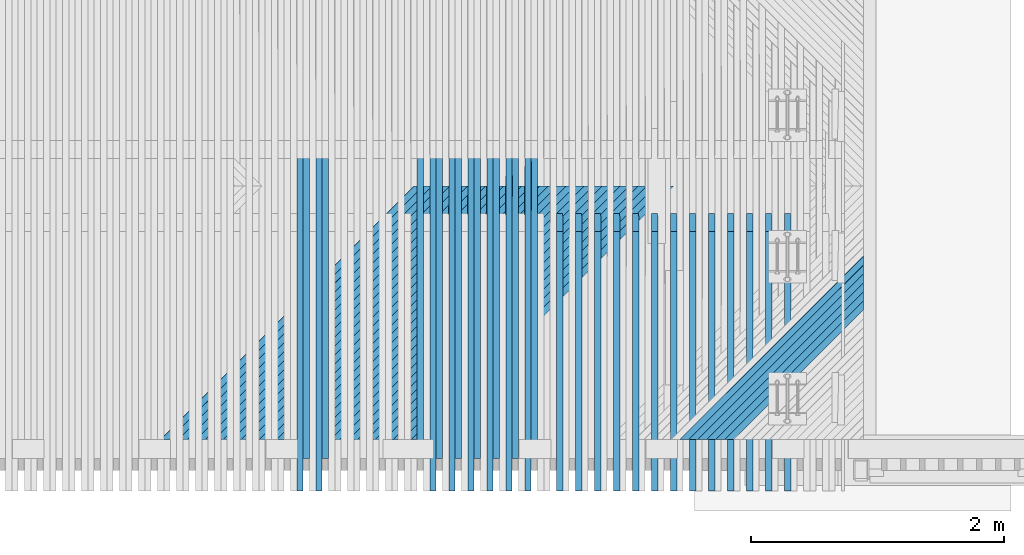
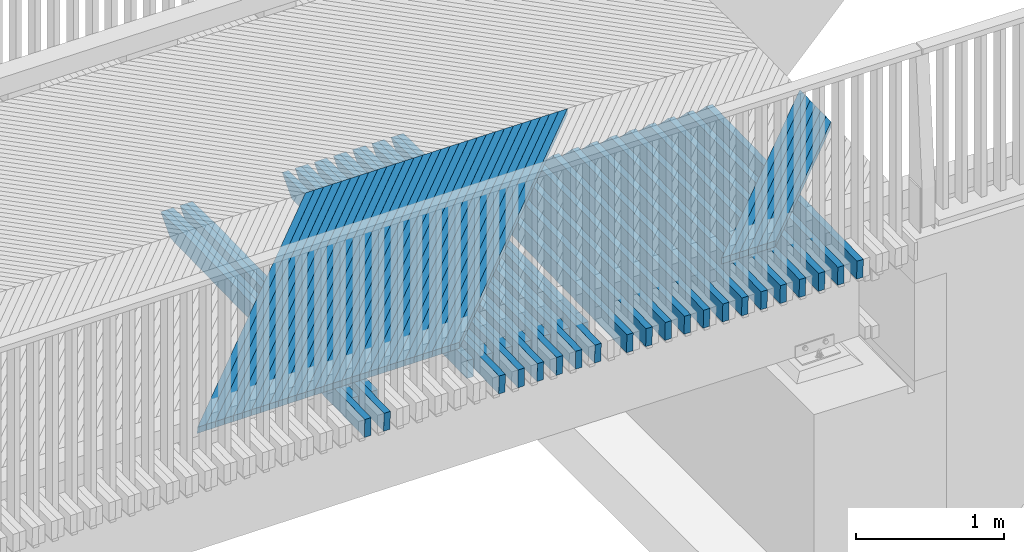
# One storey, part 37 of 47: 65 beams.
"""IFC2X3 building model written with IfcOpenShell, lengths in millimetres."""

from ifc_helpers import new_model, si_unit, frame, origin_with_axes, place, context, subcontext, project, spatial, faceted_brep, material, type_object, element, save


model = new_model("IFC2X3")

# Units and contexts
model_context = context("Model", 3, precision=1e-05, world=origin_with_axes())
body_context = subcontext(model_context, "Body", "Model", "MODEL_VIEW")
ifc_project = project(units=[si_unit("LENGTHUNIT", "METRE", prefix="MILLI"), si_unit("AREAUNIT", "SQUARE_METRE"), si_unit("VOLUMEUNIT", "CUBIC_METRE"), si_unit("MASSUNIT", "GRAM", prefix="KILO"), si_unit("TIMEUNIT", "SECOND"), si_unit("PLANEANGLEUNIT", "RADIAN"), si_unit("SOLIDANGLEUNIT", "STERADIAN"), si_unit("THERMODYNAMICTEMPERATUREUNIT", "DEGREE_CELSIUS"), si_unit("LUMINOUSINTENSITYUNIT", "LUMEN")], contexts=[model_context])

# Site, building, storey
site_placement = place(None, origin_with_axes())
site = spatial("IfcSite", under=ifc_project, at=site_placement, Name="Undefined", CompositionType="ELEMENT")
building_placement = place(site_placement, origin_with_axes())
building = spatial("IfcBuilding", under=site, at=building_placement, Name="Undefined", CompositionType="ELEMENT")
storey_placement = place(building_placement, origin_with_axes())
storey = spatial("IfcBuildingStorey", under=building, at=storey_placement, Name="Undefined", CompositionType="ELEMENT", Elevation=0.0)

# Beams
ifc_material = material(Name="TIMBER/Timber_Undefined")
beam_type_1 = type_object("IfcBeamType", Name="150*50", PredefinedType="NOTDEFINED")
for number, where, z_axis, x_axis, name in (
    (1, (16001.1404084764, 59958.5561921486, 3034.81313102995), (0.013208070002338, -0.0199960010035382, 0.999712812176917), (0.000263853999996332, 0.999800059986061, 0.0199942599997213), "BEAM"),
    (2, (15851.1246502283, 59958.5561921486, 3036.78858496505), (0.0129589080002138, -0.0199960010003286, 0.999716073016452), (0.000258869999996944, 0.999800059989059, 0.0199943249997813), "BEAM"),
    (3, (15701.1084042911, 59958.5561921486, 3038.72664995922), (0.012709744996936, -0.0199960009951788, 0.999719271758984), (0.000253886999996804, 0.999800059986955, 0.0199943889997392), "BEAM"),
    (4, (15551.0916799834, 59958.5561921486, 3040.62732589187), (0.0124605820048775, -0.0199960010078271, 0.999722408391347), (0.000248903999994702, 0.999800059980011, 0.0199944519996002), "BEAM"),
    (5, (15401.0744866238, 59958.5561921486, 3042.49061264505), (0.0122114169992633, -0.0199960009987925, 0.999725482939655), (0.000243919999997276, 0.999800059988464, 0.0199945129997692), "BEAM"),
    (6, (15251.056833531, 59958.5561921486, 3044.31651010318), (0.0119622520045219, -0.0199960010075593, 0.999728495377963), (0.000238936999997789, 0.999800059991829, 0.0199945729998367), "BEAM"),
    (7, (15101.0387300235, 59958.5561921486, 3046.10501815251), (0.011713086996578, -0.0199960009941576, 0.999731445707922), (0.000233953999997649, 0.999800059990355, 0.0199946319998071), "BEAM"),
    (8, (14951.0201854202, 59958.5561921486, 3047.85613668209), (0.0114639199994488, -0.0199960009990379, 0.999734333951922), (0.000228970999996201, 0.999800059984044, 0.0199946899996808), "BEAM"),
    (9, (14801.0012090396, 59958.5561921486, 3049.56986558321), (0.0112147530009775, -0.0199960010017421, 0.999737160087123), (0.000223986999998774, 0.999800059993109, 0.0199947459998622), "BEAM"),
    (10, (14650.9818102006, 59958.5561921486, 3051.24620474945), (0.0109655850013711, -0.0199960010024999, 0.999739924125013), (0.000219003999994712, 0.999800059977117, 0.0199948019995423), "BEAM"),
    (11, (14500.961998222, 59958.5561921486, 3052.8851540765), (0.0107164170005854, -0.0199960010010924, 0.999742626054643), (0.00021401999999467, 0.999800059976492, 0.0199948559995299), "BEAM"),
    (12, (14350.9417824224, 59958.5561921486, 3054.48671346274), (0.0104672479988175, -0.019996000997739, 0.999745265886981), (0.000209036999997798, 0.999800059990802, 0.019994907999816), "BEAM"),
    (13, (14200.9211721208, 59958.5561921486, 3056.05088280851), (0.0102180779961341, -0.0199960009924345, 0.999747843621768), (0.000204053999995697, 0.999800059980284, 0.0199949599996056), "BEAM"),
):
    element("IfcBeam", number, at=place(storey_placement, frame(where, z_axis=z_axis, x_axis=x_axis)), inside=storey, type_object=beam_type_1, material=ifc_material, Name=name, ObjectType="150*50", context=body_context, shape_type="Brep", body=[
        faceted_brep([(6.18456397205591e-09, -24.9999999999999, -75.0000000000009), (-6.1918399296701e-09, -24.9999999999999, 74.9999999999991), (-6.19911588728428e-09, 25.0, 75.0), (6.18456397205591e-09, 24.9999999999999, -75.0), (2047.96936034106, -25.0000000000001, 75.0), (2047.96935975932, 25.0, 75.0), (2186.42645864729, 25.0, -75.0), (2186.42645915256, -25.0000000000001, -75.0)], [[[0, 1, 2, 3]], [[2, 1, 4, 5]], [[3, 2, 5, 6]], [[0, 3, 6, 7]], [[1, 0, 7, 4]], [[4, 7, 6, 5]]]),
    ])
beam_1_placement = place(storey_placement, frame((14000.8684454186, 60216.5046076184, 3063.23641935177), z_axis=(0.00996890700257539, -0.0199960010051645, 0.999750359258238), x_axis=(0.000199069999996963, 0.999800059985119, 0.0199950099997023)))
element("IfcBeam", 14, at=beam_1_placement, inside=storey, type_object=beam_type_1, material=ifc_material, Name="BEAM", ObjectType="150*50", context=body_context, shape_type="Brep", body=[
    faceted_brep([(6.18456397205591e-09, -24.9999999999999, -75.0000000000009), (-6.1918399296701e-09, -24.9999999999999, 74.9999999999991), (-6.19911588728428e-09, 25.0, 75.0), (6.18456397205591e-09, 24.9999999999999, -75.0), (2375.00494220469, 24.9999999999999, -75.0000000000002), (2375.00494218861, -25.0, -75.0), (2510.59248711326, -25.0, 60.5875455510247), (2150.42518973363, -25.0, 75.0000000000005), (2150.42518840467, 25.0, 74.9999999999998), (2510.59248707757, 25.0, 60.5875454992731)], [[[0, 1, 2, 3]], [[0, 3, 4, 5]], [[1, 0, 5, 6, 7]], [[2, 1, 7, 8]], [[4, 3, 2, 8, 9]], [[5, 4, 9, 6]], [[8, 7, 6, 9]]]),
])
beam_2_placement = place(storey_placement, frame((13950.9149364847, 59958.5561921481, 3058.57312632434), z_axis=(0.0098865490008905, -0.0199960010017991, 0.999751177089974), x_axis=(0.000197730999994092, 0.99980005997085, 0.019995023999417)))
element("IfcBeam", 15, at=beam_2_placement, inside=storey, type_object=beam_type_1, material=ifc_material, Name="BEAM", ObjectType="150*50", context=body_context, shape_type="Brep", body=[
    faceted_brep([(6.18456397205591e-09, -24.9999999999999, -75.0000000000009), (-6.1918399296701e-09, -24.9999999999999, 74.9999999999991), (-6.19911588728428e-09, 25.0, 75.0), (6.18456397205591e-09, 24.9999999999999, -75.0), (2633.00494983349, 25.0000000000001, -75.0000000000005), (2633.00495050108, -24.9999999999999, -75.0000000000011), (2768.59248707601, -25.0, 60.5875366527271), (2408.42499905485, -25.0, 74.9999999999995), (2408.42501428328, 25.0000000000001, 74.9999999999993), (2768.5924870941, 25.0, 60.5875375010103)], [[[0, 1, 2, 3]], [[0, 3, 4, 5]], [[1, 0, 5, 6, 7]], [[2, 1, 7, 8]], [[4, 3, 2, 8, 9]], [[5, 4, 9, 6]], [[8, 7, 6, 9]]]),
])
beam_3_placement = place(storey_placement, frame((13850.8456652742, 60216.5046076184, 3064.71333859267), z_axis=(0.00971973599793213, -0.0199960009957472, 0.999752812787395), x_axis=(0.000194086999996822, 0.999800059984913, 0.0199950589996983)))
element("IfcBeam", 16, at=beam_3_placement, inside=storey, type_object=beam_type_1, material=ifc_material, Name="BEAM", ObjectType="150*50", context=body_context, shape_type="Brep", body=[
    faceted_brep([(6.18456397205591e-09, -24.9999999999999, -75.0000000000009), (-6.1918399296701e-09, -24.9999999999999, 74.9999999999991), (-6.19911588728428e-09, 25.0, 75.0), (6.18456397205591e-09, 24.9999999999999, -75.0), (2375.00494220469, 24.9999999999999, -75.0000000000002), (2375.00494218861, -25.0, -75.0), (2510.59248711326, -25.0, 60.5875455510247), (2150.42518973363, -25.0, 75.0000000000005), (2150.42518840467, 25.0, 74.9999999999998), (2510.59248707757, 25.0, 60.5875454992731)], [[[0, 1, 2, 3]], [[0, 3, 4, 5]], [[1, 0, 5, 6, 7]], [[2, 1, 7, 8]], [[4, 3, 2, 8, 9]], [[5, 4, 9, 6]], [[8, 7, 6, 9]]]),
])
beam_4_placement = place(storey_placement, frame((13800.8933201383, 59958.5561921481, 3060.03759564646), z_axis=(0.00963737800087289, -0.0199960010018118, 0.999753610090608), x_axis=(0.000192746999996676, 0.999800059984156, 0.0199950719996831)))
element("IfcBeam", 17, at=beam_4_placement, inside=storey, type_object=beam_type_1, material=ifc_material, Name="BEAM", ObjectType="150*50", context=body_context, shape_type="Brep", body=[
    faceted_brep([(6.18456397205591e-09, -24.9999999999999, -75.0000000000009), (-6.1918399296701e-09, -24.9999999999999, 74.9999999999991), (-6.19911588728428e-09, 25.0, 75.0), (6.18456397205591e-09, 24.9999999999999, -75.0), (2633.00494983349, 25.0000000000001, -75.0000000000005), (2633.00495050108, -24.9999999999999, -75.0000000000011), (2768.59248707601, -25.0, 60.5875366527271), (2408.42499905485, -25.0, 74.9999999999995), (2408.42501428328, 25.0000000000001, 74.9999999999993), (2768.5924870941, 25.0, 60.5875375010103)], [[[0, 1, 2, 3]], [[0, 3, 4, 5]], [[1, 0, 5, 6, 7]], [[2, 1, 7, 8]], [[4, 3, 2, 8, 9]], [[5, 4, 9, 6]], [[8, 7, 6, 9]]]),
])
beam_5_placement = place(storey_placement, frame((13700.8225216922, 60216.5046076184, 3066.15286715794), z_axis=(0.00947056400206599, -0.0199960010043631, 0.999755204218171), x_axis=(0.000189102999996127, 0.999800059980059, 0.0199951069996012)))
element("IfcBeam", 18, at=beam_5_placement, inside=storey, type_object=beam_type_1, material=ifc_material, Name="BEAM", ObjectType="150*50", context=body_context, shape_type="Brep", body=[
    faceted_brep([(6.18456397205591e-09, -24.9999999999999, -75.0000000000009), (-6.1918399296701e-09, -24.9999999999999, 74.9999999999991), (-6.19911588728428e-09, 25.0, 75.0), (6.18456397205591e-09, 24.9999999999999, -75.0), (2375.00494220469, 24.9999999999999, -75.0000000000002), (2375.00494218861, -25.0, -75.0), (2510.59248711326, -25.0, 60.5875455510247), (2150.42518973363, -25.0, 75.0000000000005), (2150.42518840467, 25.0, 74.9999999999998), (2510.59248707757, 25.0, 60.5875454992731)], [[[0, 1, 2, 3]], [[0, 3, 4, 5]], [[1, 0, 5, 6, 7]], [[2, 1, 7, 8]], [[4, 3, 2, 8, 9]], [[5, 4, 9, 6]], [[8, 7, 6, 9]]]),
])
beam_6_placement = place(storey_placement, frame((13650.8713434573, 59958.5561921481, 3061.4646745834), z_axis=(0.00938820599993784, -0.0199960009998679, 0.99975598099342), x_axis=(0.000187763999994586, 0.999800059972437, 0.0199951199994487)))
element("IfcBeam", 19, at=beam_6_placement, inside=storey, type_object=beam_type_1, material=ifc_material, Name="BEAM", ObjectType="150*50", context=body_context, shape_type="Brep", body=[
    faceted_brep([(6.18456397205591e-09, -24.9999999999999, -75.0000000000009), (-6.1918399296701e-09, -24.9999999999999, 74.9999999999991), (-6.19911588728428e-09, 25.0, 75.0), (6.18456397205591e-09, 24.9999999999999, -75.0), (2633.00494983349, 25.0000000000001, -75.0000000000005), (2633.00495050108, -24.9999999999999, -75.0000000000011), (2768.59248707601, -25.0, 60.5875366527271), (2408.42499905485, -25.0, 74.9999999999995), (2408.42501428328, 25.0000000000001, 74.9999999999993), (2768.5924870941, 25.0, 60.5875375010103)], [[[0, 1, 2, 3]], [[0, 3, 4, 5]], [[1, 0, 5, 6, 7]], [[2, 1, 7, 8]], [[4, 3, 2, 8, 9]], [[5, 4, 9, 6]], [[8, 7, 6, 9]]]),
])
beam_7_placement = place(storey_placement, frame((13550.7990239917, 60216.5046076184, 3067.5550049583), z_axis=(0.00922139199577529, -0.0199960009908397, 0.999757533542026), x_axis=(0.000184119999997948, 0.999800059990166, 0.0199951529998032)))
element("IfcBeam", 20, at=beam_7_placement, inside=storey, type_object=beam_type_1, material=ifc_material, Name="BEAM", ObjectType="150*50", context=body_context, shape_type="Brep", body=[
    faceted_brep([(6.18456397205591e-09, -24.9999999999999, -75.0000000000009), (-6.1918399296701e-09, -24.9999999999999, 74.9999999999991), (-6.19911588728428e-09, 25.0, 75.0), (6.18456397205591e-09, 24.9999999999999, -75.0), (2375.00494220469, 24.9999999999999, -75.0000000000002), (2375.00494218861, -25.0, -75.0), (2510.59248711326, -25.0, 60.5875455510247), (2150.42518973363, -25.0, 75.0000000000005), (2150.42518840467, 25.0, 74.9999999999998), (2510.59248707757, 25.0, 60.5875454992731)], [[[0, 1, 2, 3]], [[0, 3, 4, 5]], [[1, 0, 5, 6, 7]], [[2, 1, 7, 8]], [[4, 3, 2, 8, 9]], [[5, 4, 9, 6]], [[8, 7, 6, 9]]]),
])
beam_8_placement = place(storey_placement, frame((13500.8490157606, 59958.5561921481, 3062.85436304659), z_axis=(0.00913903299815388, -0.0199960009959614, 0.999758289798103), x_axis=(0.000182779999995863, 0.999800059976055, 0.0199951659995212)))
element("IfcBeam", 21, at=beam_8_placement, inside=storey, type_object=beam_type_1, material=ifc_material, Name="BEAM", ObjectType="150*50", context=body_context, shape_type="Brep", body=[
    faceted_brep([(6.18456397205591e-09, -24.9999999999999, -75.0000000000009), (-6.1918399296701e-09, -24.9999999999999, 74.9999999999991), (-6.19911588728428e-09, 25.0, 75.0), (6.18456397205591e-09, 24.9999999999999, -75.0), (2633.00494983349, 25.0000000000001, -75.0000000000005), (2633.00495050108, -24.9999999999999, -75.0000000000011), (2768.59248707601, -25.0, 60.5875366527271), (2408.42499905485, -25.0, 74.9999999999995), (2408.42501428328, 25.0000000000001, 74.9999999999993), (2768.5924870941, 25.0, 60.5875375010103)], [[[0, 1, 2, 3]], [[0, 3, 4, 5]], [[1, 0, 5, 6, 7]], [[2, 1, 7, 8]], [[4, 3, 2, 8, 9]], [[5, 4, 9, 6]], [[8, 7, 6, 9]]]),
])
beam_9_placement = place(storey_placement, frame((13400.7751814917, 60216.5046076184, 3068.91975190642), z_axis=(0.00897221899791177, -0.0199960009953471, 0.999759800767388), x_axis=(0.000179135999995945, 0.999800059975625, 0.0199951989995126)))
element("IfcBeam", 22, at=beam_9_placement, inside=storey, type_object=beam_type_1, material=ifc_material, Name="BEAM", ObjectType="150*50", context=body_context, shape_type="Brep", body=[
    faceted_brep([(6.18456397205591e-09, -24.9999999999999, -75.0000000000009), (-6.1918399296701e-09, -24.9999999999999, 74.9999999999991), (-6.19911588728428e-09, 25.0, 75.0), (6.18456397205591e-09, 24.9999999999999, -75.0), (2375.00494220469, 24.9999999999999, -75.0000000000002), (2375.00494218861, -25.0, -75.0), (2510.59248711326, -25.0, 60.5875455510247), (2150.42518973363, -25.0, 75.0000000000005), (2150.42518840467, 25.0, 74.9999999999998), (2510.59248707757, 25.0, 60.5875454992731)], [[[0, 1, 2, 3]], [[0, 3, 4, 5]], [[1, 0, 5, 6, 7]], [[2, 1, 7, 8]], [[4, 3, 2, 8, 9]], [[5, 4, 9, 6]], [[8, 7, 6, 9]]]),
])
beam_10_placement = place(storey_placement, frame((13350.8263463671, 59958.5561921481, 3064.20666094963), z_axis=(0.0088898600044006, -0.0199960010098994, 0.999760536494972), x_axis=(0.000177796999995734, 0.999800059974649, 0.019995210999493)))
element("IfcBeam", 23, at=beam_10_placement, inside=storey, type_object=beam_type_1, material=ifc_material, Name="BEAM", ObjectType="150*50", context=body_context, shape_type="Brep", body=[
    faceted_brep([(6.18456397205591e-09, -24.9999999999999, -75.0000000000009), (-6.1918399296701e-09, -24.9999999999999, 74.9999999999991), (-6.19911588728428e-09, 25.0, 75.0), (6.18456397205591e-09, 24.9999999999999, -75.0), (2633.00494983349, 25.0000000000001, -75.0000000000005), (2633.00495050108, -24.9999999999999, -75.0000000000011), (2768.59248707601, -25.0, 60.5875366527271), (2408.42499905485, -25.0, 74.9999999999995), (2408.42501428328, 25.0000000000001, 74.9999999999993), (2768.5924870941, 25.0, 60.5875375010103)], [[[0, 1, 2, 3]], [[0, 3, 4, 5]], [[1, 0, 5, 6, 7]], [[2, 1, 7, 8]], [[4, 3, 2, 8, 9]], [[5, 4, 9, 6]], [[8, 7, 6, 9]]]),
])
beam_11_placement = place(storey_placement, frame((13250.7510035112, 60216.5046076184, 3070.24710791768), z_axis=(0.00872304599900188, -0.0199960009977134, 0.9997620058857), x_axis=(0.000174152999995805, 0.999800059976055, 0.0199952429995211)))
element("IfcBeam", 24, at=beam_11_placement, inside=storey, type_object=beam_type_1, material=ifc_material, Name="BEAM", ObjectType="150*50", context=body_context, shape_type="Brep", body=[
    faceted_brep([(6.18456397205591e-09, -24.9999999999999, -75.0000000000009), (-6.1918399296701e-09, -24.9999999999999, 74.9999999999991), (-6.19911588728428e-09, 25.0, 75.0), (6.18456397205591e-09, 24.9999999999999, -75.0), (2375.00494220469, 24.9999999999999, -75.0000000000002), (2375.00494218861, -25.0, -75.0), (2510.59248711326, -25.0, 60.5875455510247), (2150.42518973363, -25.0, 75.0000000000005), (2150.42518840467, 25.0, 74.9999999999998), (2510.59248707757, 25.0, 60.5875454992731)], [[[0, 1, 2, 3]], [[0, 3, 4, 5]], [[1, 0, 5, 6, 7]], [[2, 1, 7, 8]], [[4, 3, 2, 8, 9]], [[5, 4, 9, 6]], [[8, 7, 6, 9]]]),
])
beam_12_placement = place(storey_placement, frame((13200.8033445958, 59958.5561921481, 3065.52156820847), z_axis=(0.0086406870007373, -0.0199960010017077, 0.999762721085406), x_axis=(0.000172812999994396, 0.99980005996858, 0.0199952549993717)))
element("IfcBeam", 25, at=beam_12_placement, inside=storey, type_object=beam_type_1, material=ifc_material, Name="BEAM", ObjectType="150*50", context=body_context, shape_type="Brep", body=[
    faceted_brep([(6.18456397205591e-09, -24.9999999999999, -75.0000000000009), (-6.1918399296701e-09, -24.9999999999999, 74.9999999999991), (-6.19911588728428e-09, 25.0, 75.0), (6.18456397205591e-09, 24.9999999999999, -75.0), (2633.00494983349, 25.0000000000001, -75.0000000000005), (2633.00495050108, -24.9999999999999, -75.0000000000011), (2768.59248707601, -25.0, 60.5875366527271), (2408.42499905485, -25.0, 74.9999999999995), (2408.4249624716, 24.9999999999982, 74.9999999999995), (2768.5924870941, 25.0, 60.5875375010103)], [[[0, 1, 2, 3]], [[0, 3, 4, 5]], [[1, 0, 5, 6, 7]], [[2, 1, 7, 8]], [[4, 3, 2, 8, 9]], [[5, 4, 9, 6]], [[8, 7, 6, 9]]]),
])
for number, where, z_axis, x_axis, name in (
    (26, (13100.7264993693, 60216.5046076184, 3071.53707290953), (0.00847387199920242, -0.0199960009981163, 0.999764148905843), (0.000169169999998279, 0.99980005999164, 0.0199952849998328), "BEAM"),
    (27, (12350.5994124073, 60216.5046076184, 3077.42602985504), (0.00722799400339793, -0.0199960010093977, 0.999773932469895), (0.000144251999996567, 0.999800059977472, 0.0199954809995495), "BEAM"),
):
    element("IfcBeam", number, at=place(storey_placement, frame(where, z_axis=z_axis, x_axis=x_axis)), inside=storey, type_object=beam_type_1, material=ifc_material, Name=name, ObjectType="150*50", context=body_context, shape_type="Brep", body=[
        faceted_brep([(6.18456397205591e-09, -24.9999999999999, -75.0000000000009), (-6.1918399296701e-09, -24.9999999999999, 74.9999999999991), (-6.19911588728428e-09, 25.0, 75.0), (6.18456397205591e-09, 24.9999999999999, -75.0), (2375.00494220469, 24.9999999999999, -75.0000000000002), (2375.00494218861, -25.0, -75.0), (2510.59248711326, -25.0, 60.5875455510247), (2150.42518973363, -25.0, 75.0000000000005), (2150.42518840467, 25.0, 74.9999999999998), (2510.59248707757, 25.0, 60.5875454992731)], [[[0, 1, 2, 3]], [[0, 3, 4, 5]], [[1, 0, 5, 6, 7]], [[2, 1, 7, 8]], [[4, 3, 2, 8, 9]], [[5, 4, 9, 6]], [[8, 7, 6, 9]]]),
    ])
beam_13_placement = place(storey_placement, frame((12300.6588758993, 59958.5561921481, 3072.625803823), z_axis=(0.00714563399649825, -0.0199960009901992, 0.999774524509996), x_axis=(0.000142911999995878, 0.999800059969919, 0.0199954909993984)))
element("IfcBeam", 28, at=beam_13_placement, inside=storey, type_object=beam_type_1, material=ifc_material, Name="BEAM", ObjectType="150*50", context=body_context, shape_type="Brep", body=[
    faceted_brep([(6.18456397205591e-09, -24.9999999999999, -75.0000000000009), (-6.1918399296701e-09, -24.9999999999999, 74.9999999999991), (-6.19911588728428e-09, 25.0, 75.0), (6.18456397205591e-09, 24.9999999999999, -75.0), (2633.00494983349, 25.0000000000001, -75.0000000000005), (2633.00495050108, -24.9999999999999, -75.0000000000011), (2768.59248707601, -25.0, 60.5875366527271), (2408.42499905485, -25.0, 74.9999999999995), (2408.42501428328, 25.0000000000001, 74.9999999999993), (2768.5924870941, 25.0, 60.5875375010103)], [[[0, 1, 2, 3]], [[0, 3, 4, 5]], [[1, 0, 5, 6, 7]], [[2, 1, 7, 8]], [[4, 3, 2, 8, 9]], [[5, 4, 9, 6]], [[8, 7, 6, 9]]]),
])
beam_14_placement = place(storey_placement, frame((12200.5731469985, 60216.5046076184, 3078.49164712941), z_axis=(0.00697881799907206, -0.0199960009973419, 0.999775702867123), x_axis=(0.000139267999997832, 0.99980005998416, 0.0199955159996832)))
element("IfcBeam", 29, at=beam_14_placement, inside=storey, type_object=beam_type_1, material=ifc_material, Name="BEAM", ObjectType="150*50", context=body_context, shape_type="Brep", body=[
    faceted_brep([(6.18456397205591e-09, -24.9999999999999, -75.0000000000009), (-6.1918399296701e-09, -24.9999999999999, 74.9999999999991), (-6.19911588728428e-09, 25.0, 75.0), (6.18456397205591e-09, 24.9999999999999, -75.0), (2375.00494220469, 24.9999999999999, -75.0000000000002), (2375.00494218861, -25.0, -75.0), (2510.59248711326, -25.0, 60.5875455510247), (2150.42518973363, -25.0, 75.0000000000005), (2150.42518840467, 25.0, 74.9999999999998), (2510.59248707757, 25.0, 60.5875454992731)], [[[0, 1, 2, 3]], [[0, 3, 4, 5]], [[1, 0, 5, 6, 7]], [[2, 1, 7, 8]], [[4, 3, 2, 8, 9]], [[5, 4, 9, 6]], [[8, 7, 6, 9]]]),
])
beam_15_placement = place(storey_placement, frame((12150.6338084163, 59958.5561921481, 3073.67897441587), z_axis=(0.00689645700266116, -0.0199960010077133, 0.99977627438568), x_axis=(0.000137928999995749, 0.999800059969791, 0.0199955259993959)))
element("IfcBeam", 30, at=beam_15_placement, inside=storey, type_object=beam_type_1, material=ifc_material, Name="BEAM", ObjectType="150*50", context=body_context, shape_type="Brep", body=[
    faceted_brep([(6.18456397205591e-09, -24.9999999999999, -75.0000000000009), (-6.1918399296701e-09, -24.9999999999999, 74.9999999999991), (-6.19911588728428e-09, 25.0, 75.0), (6.18456397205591e-09, 24.9999999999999, -75.0), (2633.00494983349, 25.0000000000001, -75.0000000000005), (2633.00495050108, -24.9999999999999, -75.0000000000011), (2768.59248707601, -25.0, 60.5875366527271), (2408.42499905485, -25.0, 74.9999999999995), (2408.42501428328, 25.0000000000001, 74.9999999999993), (2768.5924870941, 25.0, 60.5875375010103)], [[[0, 1, 2, 3]], [[0, 3, 4, 5]], [[1, 0, 5, 6, 7]], [[2, 1, 7, 8]], [[4, 3, 2, 8, 9]], [[5, 4, 9, 6]], [[8, 7, 6, 9]]]),
])
beam_type_2 = type_object("IfcBeamType", Name="50*50", PredefinedType="NOTDEFINED")
beam_16_placement = place(storey_placement, frame((17541.730193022, 62364.5001003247, 3160.51267253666), z_axis=(0.706821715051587, -0.706981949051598, -0.0240746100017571), x_axis=(-0.707252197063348, -0.706948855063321, -0.00420072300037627)))
element("IfcBeam", 31, at=beam_16_placement, inside=storey, type_object=beam_type_2, material=ifc_material, Name="BEAM", ObjectType="50*50", context=body_context, shape_type="Brep", body=[
    faceted_brep([(2802.92643296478, -25.0000000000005, 25.0000000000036), (2852.92877373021, -25.0000000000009, -24.9999999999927), (2854.34301907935, 24.9999999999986, -24.9999999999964), (2804.3406783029, 24.9999999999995, 25.0000000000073), (1306.05236988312, 25.0000000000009, -25.0000000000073), (1356.02193646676, 25.0, 24.9999999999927), (1357.01519479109, -25.0, 24.9999999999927), (1307.04562820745, -24.9999999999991, -25.0000000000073)], [[[0, 1, 2, 3]], [[3, 2, 4, 5]], [[0, 3, 5, 6]], [[1, 0, 6, 7]], [[2, 1, 7, 4]], [[6, 5, 4, 7]]]),
])
beam_17_placement = place(storey_placement, frame((17471.0147750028, 62364.5001003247, 3161.6292973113), z_axis=(0.706824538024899, -0.706981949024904, -0.0239915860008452), x_axis=(-0.7072516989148, -0.706948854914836, -0.004283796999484)))
element("IfcBeam", 32, at=beam_17_placement, inside=storey, type_object=beam_type_2, material=ifc_material, Name="BEAM", ObjectType="50*50", context=body_context, shape_type="Brep", body=[
    faceted_brep([(2802.92643296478, -25.0000000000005, 25.0000000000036), (2852.92877373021, -25.0000000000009, -24.9999999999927), (2854.34301907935, 24.9999999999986, -24.9999999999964), (2804.3406783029, 24.9999999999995, 25.0000000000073), (1206.07112918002, 24.9999999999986, -25.0), (1256.04093053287, 24.9999999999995, 24.9999999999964), (1257.02588801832, -25.0000000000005, 24.9999999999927), (1207.05608666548, -25.0000000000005, -25.0)], [[[0, 1, 2, 3]], [[3, 2, 4, 5]], [[0, 3, 5, 6]], [[1, 0, 6, 7]], [[2, 1, 7, 4]], [[6, 5, 4, 7]]]),
])
beam_18_placement = place(storey_placement, frame((17400.2992263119, 62364.5001003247, 3162.73761579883), z_axis=(0.706827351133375, -0.706981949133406, -0.0239085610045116), x_axis=(-0.707251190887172, -0.70694885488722, -0.00436687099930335)))
element("IfcBeam", 33, at=beam_18_placement, inside=storey, type_object=beam_type_2, material=ifc_material, Name="BEAM", ObjectType="50*50", context=body_context, shape_type="Brep", body=[
    faceted_brep([(2802.92643296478, -25.0000000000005, 25.0000000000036), (2852.92877373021, -25.0000000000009, -24.9999999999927), (2854.34301907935, 24.9999999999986, -24.9999999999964), (2804.3406783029, 24.9999999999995, 25.0000000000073), (1106.08957869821, 24.9999999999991, -25.0000000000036), (1156.05961482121, 24.9999999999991, 24.9999999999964), (1157.03627142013, -25.0000000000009, 25.0), (1107.06623529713, -25.0000000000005, -25.0000000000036)], [[[0, 1, 2, 3]], [[3, 2, 4, 5]], [[0, 3, 5, 6]], [[1, 0, 6, 7]], [[2, 1, 7, 4]], [[6, 5, 4, 7]]]),
])
beam_19_placement = place(storey_placement, frame((17329.583547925, 62364.5001003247, 3163.83762798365), z_axis=(0.706830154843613, -0.706981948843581, -0.0238255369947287), x_axis=(-0.707250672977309, -0.706948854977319, -0.00444994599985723)))
element("IfcBeam", 34, at=beam_19_placement, inside=storey, type_object=beam_type_2, material=ifc_material, Name="BEAM", ObjectType="50*50", context=body_context, shape_type="Brep", body=[
    faceted_brep([(2802.92643296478, -25.0000000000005, 25.0000000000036), (2852.92877373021, -25.0000000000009, -24.9999999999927), (2854.34301907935, 24.9999999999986, -24.9999999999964), (2804.3406783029, 24.9999999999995, 25.0000000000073), (1006.1077155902, 24.9999999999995, -25.0000000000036), (1056.07798651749, 24.9999999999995, 24.9999999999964), (1057.04634223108, -25.0000000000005, 24.9999999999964), (1007.07607130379, -25.0000000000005, -25.0000000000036)], [[[0, 1, 2, 3]], [[3, 2, 4, 5]], [[0, 3, 5, 6]], [[1, 0, 6, 7]], [[2, 1, 7, 4]], [[6, 5, 4, 7]]]),
])
beam_20_placement = place(storey_placement, frame((17258.8677408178, 62364.5001003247, 3164.92933385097), z_axis=(0.706832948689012, -0.706981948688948, -0.0237425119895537), x_axis=(-0.707250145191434, -0.706948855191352, -0.00453302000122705)))
element("IfcBeam", 35, at=beam_20_placement, inside=storey, type_object=beam_type_2, material=ifc_material, Name="BEAM", ObjectType="50*50", context=body_context, shape_type="Brep", body=[
    faceted_brep([(2802.92643296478, -25.0000000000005, 25.0000000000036), (2852.92877373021, -25.0000000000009, -24.9999999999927), (2854.34301907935, 24.9999999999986, -24.9999999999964), (2804.3406783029, 24.9999999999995, 25.0000000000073), (906.125537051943, 25.0, -25.0000000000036), (956.096042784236, 25.0, 25.0), (957.056097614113, -24.9999999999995, 25.0), (907.08559188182, -24.9999999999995, -25.0)], [[[0, 1, 2, 3]], [[3, 2, 4, 5]], [[0, 3, 5, 6]], [[1, 0, 6, 7]], [[2, 1, 7, 4]], [[6, 5, 4, 7]]]),
])
beam_21_placement = place(storey_placement, frame((17188.1518059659, 62364.5001003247, 3166.01273338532), z_axis=(0.706835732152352, -0.706981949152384, -0.0236594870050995), x_axis=(-0.707249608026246, -0.706948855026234, -0.00461609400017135)))
element("IfcBeam", 36, at=beam_21_placement, inside=storey, type_object=beam_type_2, material=ifc_material, Name="BEAM", ObjectType="50*50", context=body_context, shape_type="Brep", body=[
    faceted_brep([(2802.92643296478, -25.0000000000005, 25.0000000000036), (2852.92877373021, -25.0000000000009, -24.9999999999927), (2854.34301907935, 24.9999999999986, -24.9999999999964), (2804.3406783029, 24.9999999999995, 25.0000000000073), (806.143039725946, 24.9999999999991, -24.9999999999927), (856.113780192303, 25.0, 24.9999999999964), (857.065534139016, -25.0, 24.9999999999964), (807.094793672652, -25.0, -25.0)], [[[0, 1, 2, 3]], [[3, 2, 4, 5]], [[0, 3, 5, 6]], [[1, 0, 6, 7]], [[2, 1, 7, 4]], [[6, 5, 4, 7]]]),
])
for number, where, z_axis, x_axis, name in (
    (37, (15066.6191985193, 62364.5001003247, 3194.65220464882), (0.706914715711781, -0.706981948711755, -0.0211685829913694), (-0.707228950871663, -0.706948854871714, -0.00710827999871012), "BEAM"),
    (38, (14995.8997875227, 62364.5001003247, 3195.47810102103), (0.706917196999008, -0.706981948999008, -0.0210855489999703), (-0.707228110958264, -0.70694885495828, -0.00719135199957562), "BEAM"),
    (39, (14925.1802800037, 62364.5001003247, 3196.29569063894), (0.706919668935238, -0.706981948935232, -0.0210025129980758), (-0.70722726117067, -0.706948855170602, -0.00727442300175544), "BEAM"),
    (40, (14854.4606769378, 62364.5001003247, 3197.1049734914), (0.706922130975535, -0.706981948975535, -0.0209194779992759), (-0.707226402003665, -0.706948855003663, -0.00735749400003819), "BEAM"),
    (41, (14783.740979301, 62364.5001003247, 3197.90594956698), (0.706924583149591, -0.706981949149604, -0.020836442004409), (-0.70722553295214, -0.706948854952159, -0.00744056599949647), "BEAM"),
    (42, (14713.0211880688, 62364.5001003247, 3198.69861885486), (0.706927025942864, -0.706981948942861, -0.0207534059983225), (-0.707224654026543, -0.706948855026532, -0.00752363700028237), "BEAM"),
    (43, (14642.301304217, 62364.5001003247, 3199.4829813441), (0.706929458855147, -0.706981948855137, -0.0206703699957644), (-0.70722376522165, -0.706948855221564, -0.00760670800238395), "BEAM"),
    (44, (14571.5813287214, 62364.5001003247, 3200.25903702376), (0.706931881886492, -0.706981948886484, -0.0205873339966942), (-0.707222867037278, -0.706948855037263, -0.00768977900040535), "BEAM"),
    (45, (14500.8612625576, 62364.5001003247, 3201.02678588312), (0.706934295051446, -0.706981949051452, -0.0205042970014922), (-0.707221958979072, -0.706948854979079, -0.00777284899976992), "BEAM"),
    (46, (14430.1411067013, 62364.5001003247, 3201.78622791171), (0.706936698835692, -0.706981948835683, -0.0204212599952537), (-0.707221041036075, -0.706948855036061, -0.00785592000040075), "BEAM"),
    (47, (14359.4208621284, 62364.5001003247, 3202.53736309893), (0.706939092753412, -0.706981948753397, -0.0203382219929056), (-0.707220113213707, -0.706948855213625, -0.00793899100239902), "BEAM"),
    (48, (14288.7005298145, 62364.5001003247, 3203.28019143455), (0.706941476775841, -0.706981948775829, -0.0202551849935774), (-0.707219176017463, -0.706948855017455, -0.00802206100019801), "BEAM"),
    (49, (14217.9801107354, 62364.5001003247, 3204.01471290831), (0.706943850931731, -0.706981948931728, -0.0201721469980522), (-0.707218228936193, -0.706948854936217, -0.00810513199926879), "BEAM"),
    (50, (14147.2596058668, 62364.5001003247, 3204.74092750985), (0.706946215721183, -0.706981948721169, -0.020089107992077), (-0.707217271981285, -0.706948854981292, -0.00818820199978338), "BEAM"),
    (51, (14076.5390161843, 62364.5001003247, 3205.45883522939), (0.706948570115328, -0.706981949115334, -0.0200060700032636), (-0.707216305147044, -0.706948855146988, -0.00827127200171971), "BEAM"),
    (52, (14005.8183426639, 62364.5001003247, 3206.16843605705), (0.706950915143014, -0.706981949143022, -0.0199230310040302), (-0.707215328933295, -0.70694885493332, -0.00835434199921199), "BEAM"),
    (53, (13935.0975862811, 62364.5001003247, 3206.86972998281), (0.706953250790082, -0.706981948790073, -0.019839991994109), (-0.707214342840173, -0.706948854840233, -0.00843741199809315), "BEAM"),
    (54, (13864.3767480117, 62364.5001003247, 3207.56271699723), (0.706955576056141, -0.706981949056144, -0.019756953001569), (-0.707213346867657, -0.706948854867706, -0.00852048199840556), "BEAM"),
    (55, (13793.6558288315, 62364.5001003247, 3208.24739709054), (0.706957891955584, -0.706981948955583, -0.019673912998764), (-0.707212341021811, -0.706948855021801, -0.00860355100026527), "BEAM"),
    (56, (13722.9348297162, 62364.5001003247, 3208.92377025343), (0.706960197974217, -0.706981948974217, -0.0195908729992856), (-0.7072113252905, -0.706948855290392, -0.00868662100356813), "BEAM"),
    (57, (13652.2137516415, 62364.5001003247, 3209.5918364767), (0.70696249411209, -0.706981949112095, -0.0195078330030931), (-0.707210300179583, -0.706948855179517, -0.0087696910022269), "BEAM"),
    (58, (13581.4925955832, 62364.5001003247, 3210.25159575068), (0.706964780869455, -0.706981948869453, -0.0194247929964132), (-0.707209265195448, -0.706948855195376, -0.00885276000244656), "BEAM"),
    (59, (13510.771362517, 62364.5001003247, 3210.90304806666), (0.706967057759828, -0.706981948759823, -0.019341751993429), (-0.70720822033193, -0.706948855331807, -0.00893582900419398), "BEAM"),
    (60, (13440.0500534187, 62364.5001003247, 3211.54619341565), (0.706969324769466, -0.706981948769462, -0.0192587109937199), (-0.707207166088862, -0.706948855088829, -0.00901889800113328), "BEAM"),
    (61, (13369.3286692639, 62364.5001003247, 3212.18103178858), (0.706971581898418, -0.706981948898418, -0.0191756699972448), (-0.707206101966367, -0.706948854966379, -0.0091019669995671), "BEAM"),
    (62, (13298.6072110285, 62364.5001003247, 3212.80756317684), (0.706973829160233, -0.706981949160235, -0.0190926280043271), (-0.707205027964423, -0.706948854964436, -0.00918503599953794), "BEAM"),
    (63, (13227.8856796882, 62364.5001003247, 3213.42578757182), (0.706976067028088, -0.70698194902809, -0.0190095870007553), (-0.707203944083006, -0.706948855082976, -0.00926810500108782), "BEAM"),
    (64, (13157.1640762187, 62364.5001003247, 3214.03570496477), (0.70697829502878, -0.70698194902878, -0.0189265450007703), (-0.707202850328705, -0.706948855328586, -0.00935117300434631), "BEAM"),
    (65, (13086.4424015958, 62364.5001003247, 3214.63731534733), (0.706980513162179, -0.70698194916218, -0.0188435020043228), (-0.707201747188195, -0.706948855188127, -0.00943424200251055), "BEAM"),
):
    element("IfcBeam", number, at=place(storey_placement, frame(where, z_axis=z_axis, x_axis=x_axis)), inside=storey, type_object=beam_type_2, material=ifc_material, Name=name, ObjectType="50*50", context=body_context, shape_type="Brep", body=[
        faceted_brep([(24.8942457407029, 24.9999999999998, -24.9999999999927), (-25.0086637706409, 24.9999999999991, 25.0), (2804.3406783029, 24.9999999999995, 25.0000000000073), (2854.34301907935, 24.9999999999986, -24.9999999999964), (-26.4222658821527, -25.0000000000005, 25.0000000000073), (2802.92643296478, -25.0000000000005, 25.0000000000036), (23.4806436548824, -25.0000000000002, -25.0), (2852.92877373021, -25.0000000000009, -24.9999999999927)], [[[0, 1, 2, 3]], [[1, 4, 5, 2]], [[4, 6, 7, 5]], [[6, 0, 3, 7]], [[5, 7, 3, 2]], [[6, 4, 1, 0]]]),
    ])

save(model, "model.ifc")
